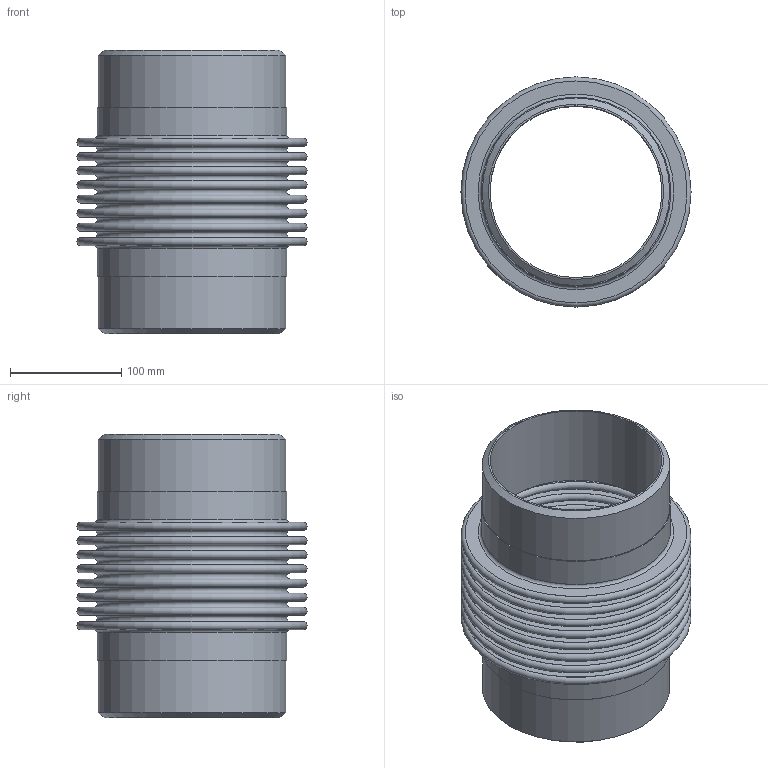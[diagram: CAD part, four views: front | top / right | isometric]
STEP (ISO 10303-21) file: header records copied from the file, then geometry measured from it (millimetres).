
FILE_DESCRIPTION(/* description */ (''),/* implementation_level */ '2;1');
FILE_NAME(/* name */ 'PIPE- 6 - 150 PSIG ASSEMBLY PART.stp',/* time_stamp */ '2026-07-24T15:31:38-05:00',/* author */ ('jorgef'),/* organization */ (''),/* preprocessor_version */ 'ST-DEVELOPER v20.1',/* originating_system */ 'Autodesk Inventor 2026',/* authorisation */ '');
FILE_SCHEMA (('AUTOMOTIVE_DESIGN { 1 0 10303 214 3 1 1 }'));
Length unit declared in the file: inch
Products named in the file (1): PIPE- 6 - 150 PSIG ASSEMBLY PART
Bounding box: 206.38 x 206.38 x 254 mm (x, y, z)
Volume: 748707 mm3; surface area: 576766.2 mm2
Topology: 1 solids, 1 shells, 80 faces, 126 edges, 84 vertices
Faces by surface type: plane 38, torus 34, cylinder 6, cone 2
Full cylindrical faces by diameter (mm): 154.051 x2, 168.275 x2, 170.104 x2
Entity records: 2035 total; most frequent: DIRECTION 406, CARTESIAN_POINT 291, ORIENTED_EDGE 252, AXIS2_PLACEMENT_3D 199, EDGE_CURVE 126, EDGE_LOOP 118, CIRCLE 118, VERTEX_POINT 84
